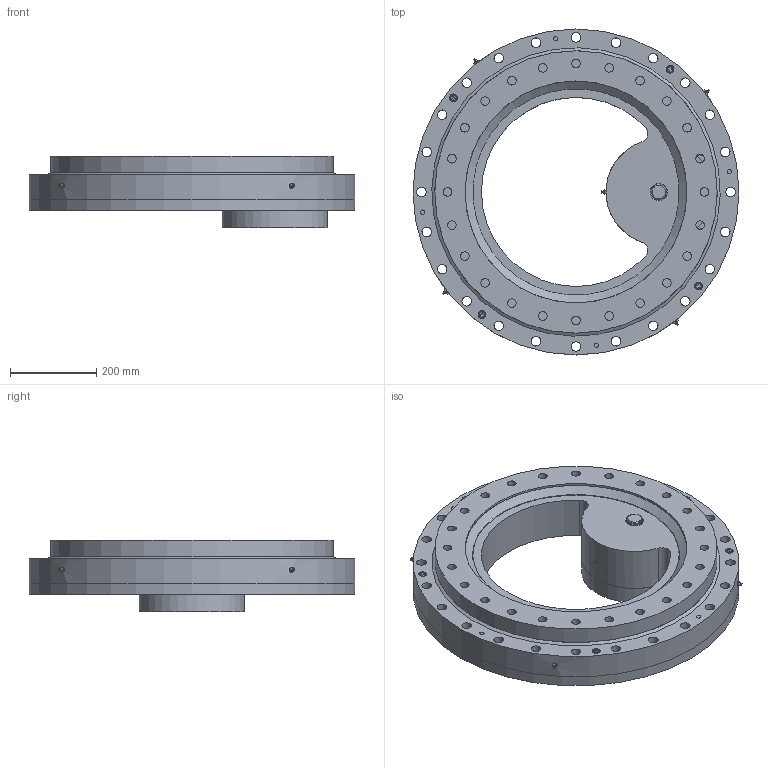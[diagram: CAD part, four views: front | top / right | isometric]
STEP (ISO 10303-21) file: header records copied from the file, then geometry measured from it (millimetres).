
FILE_DESCRIPTION(/* description */ ('STEP AP214'),/* implementation_level */ '2;1');
FILE_NAME(/* name */ '\\Serwer-ad\dnia$\dnia_tomasz_tb\Desktop\Tomcio\1. Cenniki + katalogi + materiały\U- Transmission\Katalogi 2023\Wersja NATECH DRV\Inner gear - slew drive\Our inner gear slew drive STEP\PT-H-0655-I-B-S.stp',/* time_stamp */ '2024-04-30T10:50:50+02:00',/* author */ ('dnia_tomasz_tb'),/* organization */ (''),/* preprocessor_version */ 'ST-DEVELOPER v19',/* originating_system */ 'Autodesk Inventor 2023',/* authorisation */ '');
FILE_SCHEMA (('AUTOMOTIVE_DESIGN { 1 0 10303 214 3 1 1 }'));
Length unit declared in the file: millimetre
Products named in the file (1): PT-H-0655-I-B-S
Bounding box: 755 x 755 x 165 mm (x, y, z)
Surface area: 1674386.9 mm2 (no closed solid volume)
Topology: 0 solids, 48 shells, 354 faces, 1185 edges, 849 vertices
Faces by surface type: plane 168, cylinder 150, cone 18, torus 18
Full cylindrical faces by diameter (mm): 2 x4, 8.5 x4, 10 x1, 10.2 x4, 18 x12, 20 x24, 22 x24, 24 x24, 36 x1, 40 x1, 70 x1, 105 x1, 105.925 x1, 160 x1, 245 x1, 514 x1, 654 x1, 755 x2
Entity records: 14506 total; most frequent: CARTESIAN_POINT 3048, DIRECTION 2481, ORIENTED_EDGE 1829, EDGE_CURVE 1181, AXIS2_PLACEMENT_3D 955, VERTEX_POINT 849, CIRCLE 600, EDGE_LOOP 573
